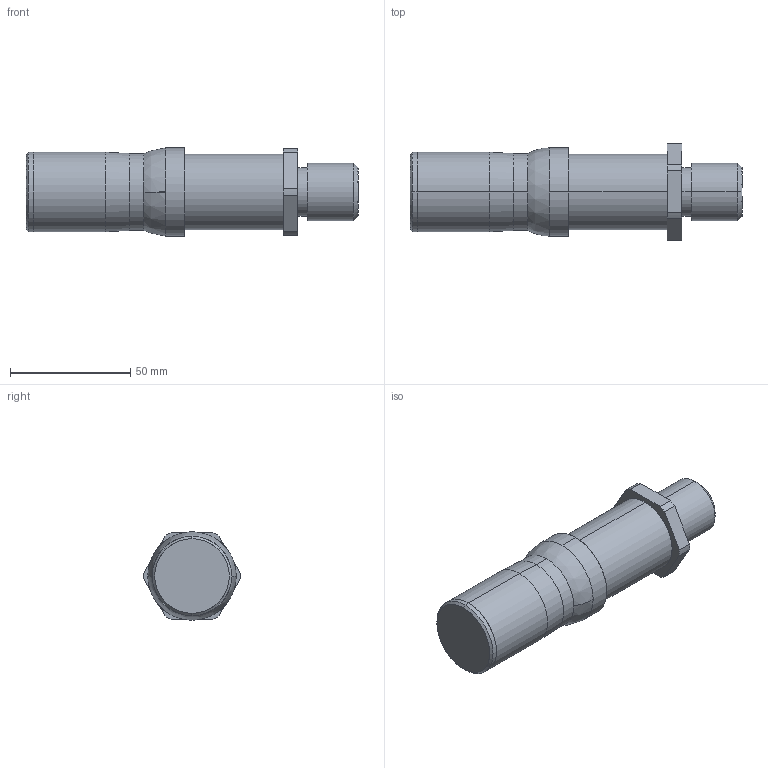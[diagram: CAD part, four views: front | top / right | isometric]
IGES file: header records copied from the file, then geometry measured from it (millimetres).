
Start section: SolidWorks IGES file using analytic representation for surfaces
Global section: file name: Z:\7-3D図面\02.3Dデータ(提出用)\電子カタログ\Ｓ／Ａ\FES\FES-2440.IGS; native system: SolidWorks 2015; preprocessor: SolidWorks 2015; author: flgijutsu02; date: 150615.142830; units: millimetre
Bounding box: 138 x 39.99 x 36.7 mm (x, y, z)
Surface area: 18065.3 mm2 (no closed solid volume)
Topology: 0 solids, 0 shells, 48 faces, 832 edges, 832 vertices
Faces by surface type: revolution 34, bspline 14
